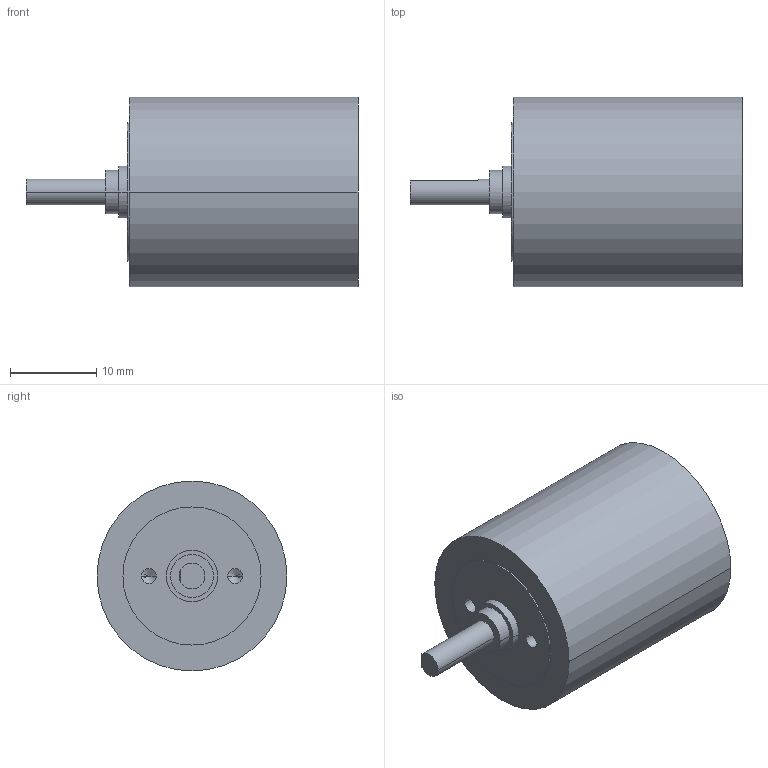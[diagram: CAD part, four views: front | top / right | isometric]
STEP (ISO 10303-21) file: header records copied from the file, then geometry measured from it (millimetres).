
FILE_DESCRIPTION((''),'2;1');
FILE_NAME('1682158','2016-10-04T',('mmagvisi'),(''),'CREO PARAMETRIC BY PTC INC, 2016050','CREO PARAMETRIC BY PTC INC, 2016050','');
FILE_SCHEMA(('CONFIG_CONTROL_DESIGN'));
Length unit declared in the file: millimetre
Products named in the file (1): 1682158
Bounding box: 38.45 x 22 x 22 mm (x, y, z)
Volume: 9407.6 mm3; surface area: 2950.5 mm2
Topology: 1 solids, 1 shells, 32 faces, 68 edges, 42 vertices
Faces by surface type: cylinder 18, plane 10, cone 4
Entity records: 953 total; most frequent: DIRECTION 162, CARTESIAN_POINT 143, ORIENTED_EDGE 128, AXIS2_PLACEMENT_3D 68, EDGE_CURVE 64, COLOUR_RGB 58, VERTEX_POINT 42, EDGE_LOOP 40
